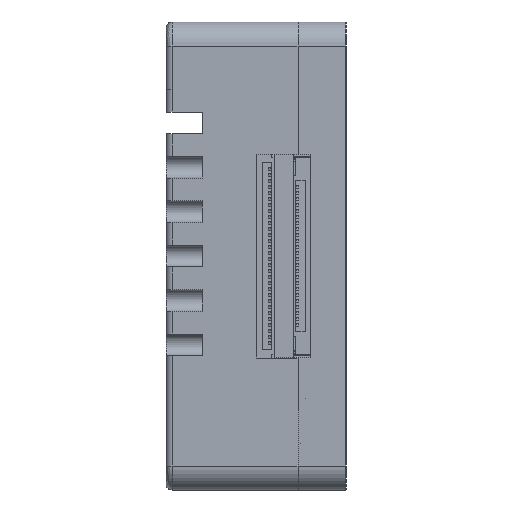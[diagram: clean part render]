
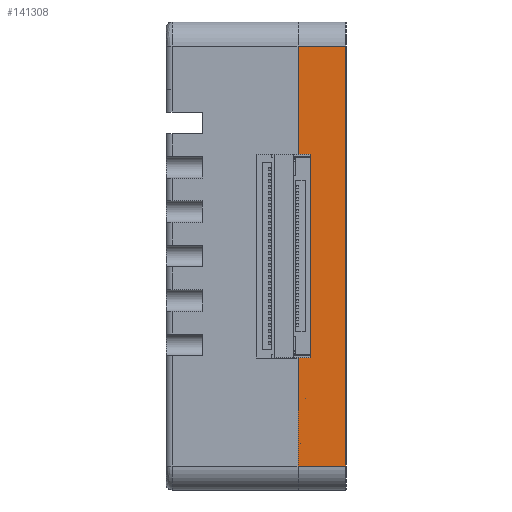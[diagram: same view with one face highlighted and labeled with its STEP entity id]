
A CAD part, left-side view. The second image highlights one B-rep face of the part: STEP entity #141308.
In plain terms, the highlighted planar face has unit normal (-1, 0, 0).
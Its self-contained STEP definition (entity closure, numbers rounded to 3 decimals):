
#8655 = VERTEX_POINT ( 'NONE', #161111 ) ;
#10307 = VECTOR ( 'NONE', #68701, 1000. ) ;
#15965 = CARTESIAN_POINT ( 'NONE',  ( -36.5, -2., -8.5 ) ) ;
#17778 = LINE ( 'NONE', #145459, #152997 ) ;
#18180 = CARTESIAN_POINT ( 'NONE',  ( -36.5, -2., 17.5 ) ) ;
#20117 = VECTOR ( 'NONE', #152683, 1000. ) ;
#21201 = DIRECTION ( 'NONE',  ( 0., 0., -1. ) ) ;
#24143 = ORIENTED_EDGE ( 'NONE', *, *, #72461, .T. ) ;
#24351 = CARTESIAN_POINT ( 'NONE',  ( -36.5, -6., 17.5 ) ) ;
#26761 = VERTEX_POINT ( 'NONE', #27899 ) ;
#27003 = VECTOR ( 'NONE', #60668, 1000. ) ;
#27116 = EDGE_CURVE ( 'NONE', #146017, #26761, #99358, .T. ) ;
#27899 = CARTESIAN_POINT ( 'NONE',  ( -36.5, -2., -17.5 ) ) ;
#30780 = ORIENTED_EDGE ( 'NONE', *, *, #85288, .T. ) ;
#33332 = ORIENTED_EDGE ( 'NONE', *, *, #135503, .T. ) ;
#34323 = LINE ( 'NONE', #148095, #104531 ) ;
#38259 = DIRECTION ( 'NONE',  ( -1., 0., 0. ) ) ;
#42190 = CARTESIAN_POINT ( 'NONE',  ( -36.5, -2., -8.5 ) ) ;
#43673 = LINE ( 'NONE', #92872, #134527 ) ;
#49186 = CARTESIAN_POINT ( 'NONE',  ( -36.5, -2., -19.5 ) ) ;
#49999 = LINE ( 'NONE', #85282, #112162 ) ;
#52456 = AXIS2_PLACEMENT_3D ( 'NONE', #76721, #38259, #127547 ) ;
#54506 = VERTEX_POINT ( 'NONE', #18180 ) ;
#56659 = ORIENTED_EDGE ( 'NONE', *, *, #150685, .T. ) ;
#58378 = DIRECTION ( 'NONE',  ( 0., -1., 0. ) ) ;
#60668 = DIRECTION ( 'NONE',  ( 0., 0., -1. ) ) ;
#68701 = DIRECTION ( 'NONE',  ( 0., 0., -1. ) ) ;
#72461 = EDGE_CURVE ( 'NONE', #26761, #94977, #17778, .T. ) ;
#73459 = FACE_OUTER_BOUND ( 'NONE', #139575, .T. ) ;
#76721 = CARTESIAN_POINT ( 'NONE',  ( -36.5, -5., -19.5 ) ) ;
#78777 = EDGE_CURVE ( 'NONE', #99000, #94977, #34323, .T. ) ;
#79593 = VERTEX_POINT ( 'NONE', #89614 ) ;
#81667 = DIRECTION ( 'NONE',  ( 0., -1., 0. ) ) ;
#85282 = CARTESIAN_POINT ( 'NONE',  ( -36.5, -5., 17.5 ) ) ;
#85288 = EDGE_CURVE ( 'NONE', #8655, #79593, #43673, .T. ) ;
#85992 = ORIENTED_EDGE ( 'NONE', *, *, #27116, .T. ) ;
#89614 = CARTESIAN_POINT ( 'NONE',  ( -36.5, -3., 8.5 ) ) ;
#92872 = CARTESIAN_POINT ( 'NONE',  ( -36.5, -2., 8.5 ) ) ;
#94977 = VERTEX_POINT ( 'NONE', #155003 ) ;
#99000 = VERTEX_POINT ( 'NONE', #24351 ) ;
#99358 = LINE ( 'NONE', #123124, #131489 ) ;
#104531 = VECTOR ( 'NONE', #21201, 1000. ) ;
#107950 = ORIENTED_EDGE ( 'NONE', *, *, #78777, .F. ) ;
#108014 = CARTESIAN_POINT ( 'NONE',  ( -36.5, -3., -19.5 ) ) ;
#112025 = VERTEX_POINT ( 'NONE', #147692 ) ;
#112162 = VECTOR ( 'NONE', #135227, 1000. ) ;
#120283 = LINE ( 'NONE', #108014, #10307 ) ;
#123124 = CARTESIAN_POINT ( 'NONE',  ( -36.5, -2., -19.5 ) ) ;
#123919 = DIRECTION ( 'NONE',  ( 0., 0., -1. ) ) ;
#127547 = DIRECTION ( 'NONE',  ( 0., 0., 1. ) ) ;
#131489 = VECTOR ( 'NONE', #123919, 1000. ) ;
#132576 = ORIENTED_EDGE ( 'NONE', *, *, #155529, .T. ) ;
#132940 = EDGE_CURVE ( 'NONE', #112025, #146017, #142073, .T. ) ;
#134527 = VECTOR ( 'NONE', #58378, 1000. ) ;
#135227 = DIRECTION ( 'NONE',  ( 0., 1., 0. ) ) ;
#135503 = EDGE_CURVE ( 'NONE', #99000, #54506, #49999, .T. ) ;
#139188 = ORIENTED_EDGE ( 'NONE', *, *, #132940, .T. ) ;
#139575 = EDGE_LOOP ( 'NONE', ( #30780, #56659, #139188, #85992, #24143, #107950, #33332, #132576 ) ) ;
#140641 = PLANE ( 'NONE',  #52456 ) ;
#141308 = ADVANCED_FACE ( 'NONE', ( #73459 ), #140641, .T. ) ;
#142073 = LINE ( 'NONE', #15965, #20117 ) ;
#145459 = CARTESIAN_POINT ( 'NONE',  ( -36.5, -5., -17.5 ) ) ;
#146017 = VERTEX_POINT ( 'NONE', #42190 ) ;
#147692 = CARTESIAN_POINT ( 'NONE',  ( -36.5, -3., -8.5 ) ) ;
#148095 = CARTESIAN_POINT ( 'NONE',  ( -36.5, -6., 17.5 ) ) ;
#149841 = LINE ( 'NONE', #49186, #27003 ) ;
#150685 = EDGE_CURVE ( 'NONE', #79593, #112025, #120283, .T. ) ;
#152683 = DIRECTION ( 'NONE',  ( 0., 1., 0. ) ) ;
#152997 = VECTOR ( 'NONE', #81667, 1000. ) ;
#155003 = CARTESIAN_POINT ( 'NONE',  ( -36.5, -6., -17.5 ) ) ;
#155529 = EDGE_CURVE ( 'NONE', #54506, #8655, #149841, .T. ) ;
#161111 = CARTESIAN_POINT ( 'NONE',  ( -36.5, -2., 8.5 ) ) ;
